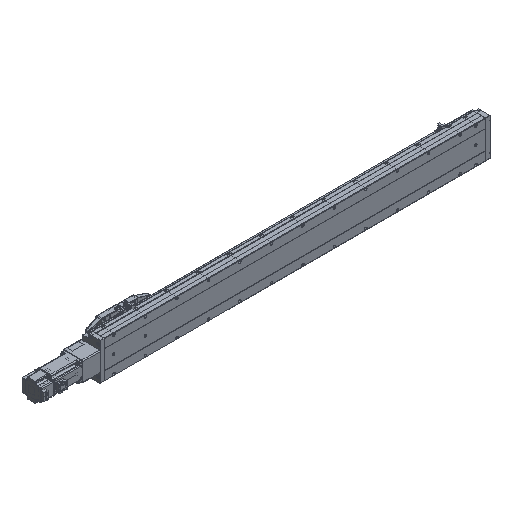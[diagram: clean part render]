
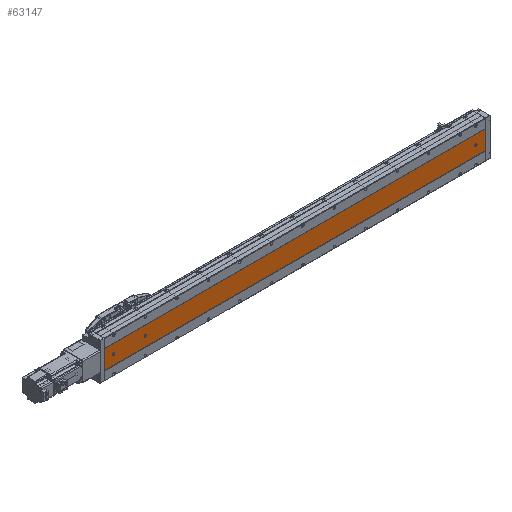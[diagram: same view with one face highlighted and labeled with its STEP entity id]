
A CAD part, isometric view. The second image highlights one B-rep face of the part: STEP entity #63147.
In plain terms, the highlighted planar face has unit normal (0, -1, 0).
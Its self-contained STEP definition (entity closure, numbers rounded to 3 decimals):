
#885 = LINE ( 'NONE', #23703, #62111 ) ;
#1416 = EDGE_CURVE ( 'NONE', #86213, #95359, #91286, .T. ) ;
#1438 = EDGE_LOOP ( 'NONE', ( #3732, #3513, #48425, #60776 ) ) ;
#1489 = CARTESIAN_POINT ( 'NONE',  ( -36.392, -52.848, 1211. ) ) ;
#1506 = CARTESIAN_POINT ( 'NONE',  ( -69.892, -52.848, 1211. ) ) ;
#2213 = CARTESIAN_POINT ( 'NONE',  ( -39.892, -52.848, 1181. ) ) ;
#2280 = VECTOR ( 'NONE', #80851, 1000. ) ;
#3236 = CARTESIAN_POINT ( 'NONE',  ( -39.892, -52.848, 1081. ) ) ;
#3513 = ORIENTED_EDGE ( 'NONE', *, *, #75997, .F. ) ;
#3732 = ORIENTED_EDGE ( 'NONE', *, *, #76006, .T. ) ;
#5418 = VERTEX_POINT ( 'NONE', #65340 ) ;
#6082 = DIRECTION ( 'NONE',  ( 1., 0., 0. ) ) ;
#6118 = EDGE_CURVE ( 'NONE', #95359, #86213, #61565, .T. ) ;
#6395 = VERTEX_POINT ( 'NONE', #61746 ) ;
#6998 = DIRECTION ( 'NONE',  ( 0., 1., 0. ) ) ;
#7124 = CARTESIAN_POINT ( 'NONE',  ( -39.892, -52.848, 1184.5 ) ) ;
#8037 = DIRECTION ( 'NONE',  ( 0., 1., 0. ) ) ;
#8182 = DIRECTION ( 'NONE',  ( 0., 0., 1. ) ) ;
#9247 = CARTESIAN_POINT ( 'NONE',  ( -9.892, -52.848, 0. ) ) ;
#9281 = EDGE_LOOP ( 'NONE', ( #28684, #93943, #47459, #30532, #87207 ) ) ;
#10128 = DIRECTION ( 'NONE',  ( 0., 0., 1. ) ) ;
#10162 = EDGE_CURVE ( 'NONE', #33524, #6395, #37363, .T. ) ;
#10226 = VERTEX_POINT ( 'NONE', #95220 ) ;
#10327 = AXIS2_PLACEMENT_3D ( 'NONE', #78599, #85241, #63099 ) ;
#10632 = FACE_BOUND ( 'NONE', #10944, .T. ) ;
#10944 = EDGE_LOOP ( 'NONE', ( #19595, #31268 ) ) ;
#12058 = AXIS2_PLACEMENT_3D ( 'NONE', #45010, #61102, #83865 ) ;
#12693 = CIRCLE ( 'NONE', #10327, 3.5 ) ;
#12803 = CARTESIAN_POINT ( 'NONE',  ( -43.392, -52.848, 32. ) ) ;
#14537 = DIRECTION ( 'NONE',  ( 0., 0., 1. ) ) ;
#15329 = VERTEX_POINT ( 'NONE', #47264 ) ;
#15650 = EDGE_CURVE ( 'NONE', #6395, #25905, #37651, .T. ) ;
#16121 = CARTESIAN_POINT ( 'NONE',  ( -43.392, -52.848, 30. ) ) ;
#16421 = CARTESIAN_POINT ( 'NONE',  ( -9.892, -52.848, 1211. ) ) ;
#17153 = DIRECTION ( 'NONE',  ( 0., 0., 1. ) ) ;
#17622 = DIRECTION ( 'NONE',  ( 0., 1., 0. ) ) ;
#18639 = LINE ( 'NONE', #88797, #2280 ) ;
#18805 = FACE_BOUND ( 'NONE', #9281, .T. ) ;
#19595 = ORIENTED_EDGE ( 'NONE', *, *, #6118, .T. ) ;
#20080 = LINE ( 'NONE', #1506, #80245 ) ;
#21664 = EDGE_CURVE ( 'NONE', #5418, #95840, #12693, .T. ) ;
#22275 = VERTEX_POINT ( 'NONE', #12803 ) ;
#23366 = AXIS2_PLACEMENT_3D ( 'NONE', #90764, #8037, #60758 ) ;
#23387 = DIRECTION ( 'NONE',  ( 0., 0., -1. ) ) ;
#23703 = CARTESIAN_POINT ( 'NONE',  ( -69.892, -52.848, 1211. ) ) ;
#25234 = DIRECTION ( 'NONE',  ( 0., 0., 1. ) ) ;
#25905 = VERTEX_POINT ( 'NONE', #16121 ) ;
#28684 = ORIENTED_EDGE ( 'NONE', *, *, #35780, .T. ) ;
#28890 = CIRCLE ( 'NONE', #65397, 3.5 ) ;
#29550 = LINE ( 'NONE', #68151, #46079 ) ;
#30353 = AXIS2_PLACEMENT_3D ( 'NONE', #2213, #17622, #25234 ) ;
#30532 = ORIENTED_EDGE ( 'NONE', *, *, #10162, .T. ) ;
#31117 = ORIENTED_EDGE ( 'NONE', *, *, #21664, .T. ) ;
#31268 = ORIENTED_EDGE ( 'NONE', *, *, #1416, .T. ) ;
#33524 = VERTEX_POINT ( 'NONE', #61186 ) ;
#35752 = CARTESIAN_POINT ( 'NONE',  ( -69.892, -52.848, 0. ) ) ;
#35780 = EDGE_CURVE ( 'NONE', #25905, #22275, #29550, .T. ) ;
#37363 = CIRCLE ( 'NONE', #54375, 3.5 ) ;
#37651 = CIRCLE ( 'NONE', #97078, 3.5 ) ;
#38912 = EDGE_CURVE ( 'NONE', #22275, #10226, #28890, .T. ) ;
#40545 = CARTESIAN_POINT ( 'NONE',  ( -39.892, -52.848, 30. ) ) ;
#41956 = EDGE_CURVE ( 'NONE', #15329, #53632, #20080, .T. ) ;
#43599 = CARTESIAN_POINT ( 'NONE',  ( -39.892, -52.848, 30. ) ) ;
#43682 = EDGE_CURVE ( 'NONE', #95840, #5418, #96511, .T. ) ;
#45010 = CARTESIAN_POINT ( 'NONE',  ( -39.892, -52.848, 1081. ) ) ;
#46079 = VECTOR ( 'NONE', #8182, 1000. ) ;
#47264 = CARTESIAN_POINT ( 'NONE',  ( -69.892, -52.848, 1211. ) ) ;
#47459 = ORIENTED_EDGE ( 'NONE', *, *, #80044, .T. ) ;
#48425 = ORIENTED_EDGE ( 'NONE', *, *, #41956, .F. ) ;
#52831 = AXIS2_PLACEMENT_3D ( 'NONE', #3236, #78007, #10128 ) ;
#53065 = CARTESIAN_POINT ( 'NONE',  ( -39.892, -52.848, 32. ) ) ;
#53632 = VERTEX_POINT ( 'NONE', #16421 ) ;
#54236 = DIRECTION ( 'NONE',  ( 1., 0., 0. ) ) ;
#54375 = AXIS2_PLACEMENT_3D ( 'NONE', #40545, #92952, #17153 ) ;
#58218 = EDGE_CURVE ( 'NONE', #15329, #92316, #885, .T. ) ;
#59803 = EDGE_LOOP ( 'NONE', ( #31117, #63532 ) ) ;
#60758 = DIRECTION ( 'NONE',  ( 0., 0., 1. ) ) ;
#60776 = ORIENTED_EDGE ( 'NONE', *, *, #58218, .T. ) ;
#61102 = DIRECTION ( 'NONE',  ( 0., 1., 0. ) ) ;
#61157 = VECTOR ( 'NONE', #6082, 1000. ) ;
#61186 = CARTESIAN_POINT ( 'NONE',  ( -36.392, -52.848, 30. ) ) ;
#61440 = DIRECTION ( 'NONE',  ( 0., 0., -1. ) ) ;
#61565 = CIRCLE ( 'NONE', #52831, 3.5 ) ;
#61644 = VECTOR ( 'NONE', #61440, 1000. ) ;
#61746 = CARTESIAN_POINT ( 'NONE',  ( -39.892, -52.848, 26.5 ) ) ;
#62111 = VECTOR ( 'NONE', #23387, 1000. ) ;
#63099 = DIRECTION ( 'NONE',  ( 0., 0., 1. ) ) ;
#63147 = ADVANCED_FACE ( 'NONE', ( #18805, #10632, #89613, #69516 ), #75592, .F. ) ;
#63532 = ORIENTED_EDGE ( 'NONE', *, *, #43682, .T. ) ;
#65340 = CARTESIAN_POINT ( 'NONE',  ( -39.892, -52.848, 1177.5 ) ) ;
#65397 = AXIS2_PLACEMENT_3D ( 'NONE', #53065, #83333, #76051 ) ;
#68151 = CARTESIAN_POINT ( 'NONE',  ( -43.392, -52.848, 1211. ) ) ;
#69516 = FACE_OUTER_BOUND ( 'NONE', #1438, .T. ) ;
#70316 = CARTESIAN_POINT ( 'NONE',  ( -39.892, -52.848, 1084.5 ) ) ;
#72934 = LINE ( 'NONE', #35752, #61157 ) ;
#75592 = PLANE ( 'NONE',  #23366 ) ;
#75997 = EDGE_CURVE ( 'NONE', #53632, #90122, #18639, .T. ) ;
#76006 = EDGE_CURVE ( 'NONE', #92316, #90122, #72934, .T. ) ;
#76051 = DIRECTION ( 'NONE',  ( 0., 0., 1. ) ) ;
#78007 = DIRECTION ( 'NONE',  ( 0., 1., 0. ) ) ;
#78599 = CARTESIAN_POINT ( 'NONE',  ( -39.892, -52.848, 1181. ) ) ;
#80044 = EDGE_CURVE ( 'NONE', #10226, #33524, #84086, .T. ) ;
#80245 = VECTOR ( 'NONE', #54236, 1000. ) ;
#80851 = DIRECTION ( 'NONE',  ( 0., 0., -1. ) ) ;
#83333 = DIRECTION ( 'NONE',  ( 0., 1., 0. ) ) ;
#83865 = DIRECTION ( 'NONE',  ( 0., 0., 1. ) ) ;
#84086 = LINE ( 'NONE', #1489, #61644 ) ;
#85241 = DIRECTION ( 'NONE',  ( 0., 1., 0. ) ) ;
#86213 = VERTEX_POINT ( 'NONE', #70316 ) ;
#87207 = ORIENTED_EDGE ( 'NONE', *, *, #15650, .T. ) ;
#88797 = CARTESIAN_POINT ( 'NONE',  ( -9.892, -52.848, 1211. ) ) ;
#89613 = FACE_BOUND ( 'NONE', #59803, .T. ) ;
#90122 = VERTEX_POINT ( 'NONE', #9247 ) ;
#90764 = CARTESIAN_POINT ( 'NONE',  ( -69.892, -52.848, 1211. ) ) ;
#90912 = CARTESIAN_POINT ( 'NONE',  ( -69.892, -52.848, 0. ) ) ;
#91286 = CIRCLE ( 'NONE', #12058, 3.5 ) ;
#92316 = VERTEX_POINT ( 'NONE', #90912 ) ;
#92952 = DIRECTION ( 'NONE',  ( 0., 1., 0. ) ) ;
#93914 = CARTESIAN_POINT ( 'NONE',  ( -39.892, -52.848, 1077.5 ) ) ;
#93943 = ORIENTED_EDGE ( 'NONE', *, *, #38912, .T. ) ;
#95220 = CARTESIAN_POINT ( 'NONE',  ( -36.392, -52.848, 32. ) ) ;
#95359 = VERTEX_POINT ( 'NONE', #93914 ) ;
#95840 = VERTEX_POINT ( 'NONE', #7124 ) ;
#96511 = CIRCLE ( 'NONE', #30353, 3.5 ) ;
#97078 = AXIS2_PLACEMENT_3D ( 'NONE', #43599, #6998, #14537 ) ;
